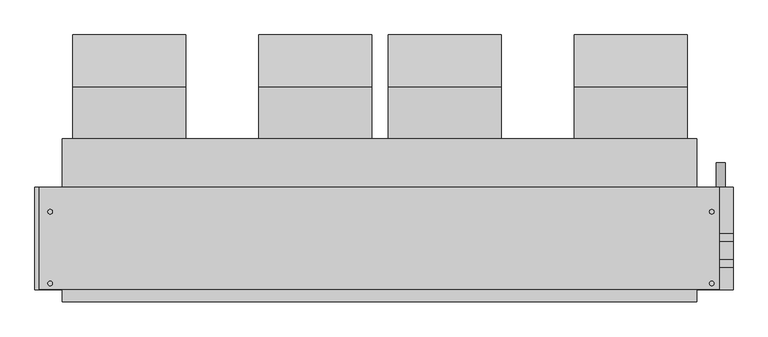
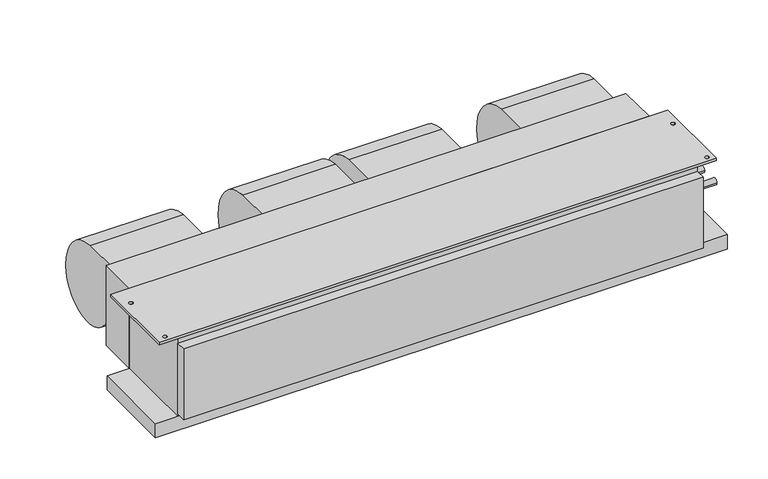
"""IFC4 building model written with IfcOpenShell, lengths in millimetres: proxy geometry, Concealed_Horizontal_Fan_Coil_Unit_-_42CAA_-_CARRIER_-_2-Pipe_Cool-EHeat_RH_2022 : Size 10 - 277v/60Hz/1Ph - 4 Row 8.0kW."""

from ifc_helpers import new_model, si_unit, point, frame, frame_2d, origin, place, context, project, spatial, polyline, circle_curve, trimmed, segment, composite_curve, outline, extrude, source, transform, mapped, element, save


def mechanical_equipment_d157ac76(model_context):
    return source(origin(), model_context, "Body", "SweptSolid", [
        extrude(outline(composite_curve([segment(trimmed(circle_curve(frame_2d((68.401169, -136.0299844)), 117.3559541), [point((77.7875, -19.05))], [point((185.7375, -138.176))], False, "CARTESIAN"), True, "CONTINUOUS"), segment(trimmed(circle_curve(frame_2d((90.0022663, -136.4250563)), 95.7512443), [point((185.7375, -138.176))], [point((77.7875, -231.394))], False, "CARTESIAN"), True, "CONTINUOUS"), segment(trimmed(circle_curve(frame_2d((89.9711869, -136.6666968)), 95.5076133), [point((77.7875, -231.394))], [point((-5.5245, -138.176))], False, "CARTESIAN"), True, "CONTINUOUS"), segment(trimmed(circle_curve(frame_2d((-24.6059828, -138.4775816)), 19.0838659), [point((-5.5245, -138.176))], [point((-17.7963373, -120.65))], True, "CARTESIAN"), True, "CONTINUOUS"), segment(polyline([(-17.7963373, -120.65), (-30.1625, -120.65), (-30.1625, -19.05), (77.7875, -19.05)]), True, "CONTINUOUS")], self_intersect=False)), frame((558.038, 0.0, 0.0), z_axis=(1.0, 0.0, 0.0), x_axis=(0.0, 1.0, 0.0)), (0.0, 0.0, 1.0), 235.712),
        extrude(outline(composite_curve([segment(trimmed(circle_curve(frame_2d((68.401169, -136.0299844)), 117.3559541), [point((77.7875, -19.05))], [point((185.7375, -138.176))], False, "CARTESIAN"), True, "CONTINUOUS"), segment(trimmed(circle_curve(frame_2d((90.0022663, -136.4250563)), 95.7512443), [point((185.7375, -138.176))], [point((77.7875, -231.394))], False, "CARTESIAN"), True, "CONTINUOUS"), segment(trimmed(circle_curve(frame_2d((89.9711869, -136.6666968)), 95.5076133), [point((77.7875, -231.394))], [point((-5.5245, -138.176))], False, "CARTESIAN"), True, "CONTINUOUS"), segment(trimmed(circle_curve(frame_2d((-24.6059828, -138.4775816)), 19.0838659), [point((-5.5245, -138.176))], [point((-17.7963373, -120.65))], True, "CARTESIAN"), True, "CONTINUOUS"), segment(polyline([(-17.7963373, -120.65), (-30.1625, -120.65), (-30.1625, -19.05), (77.7875, -19.05)]), True, "CONTINUOUS")], self_intersect=False)), frame((-486.537, 0.0, 0.0), z_axis=(1.0, 0.0, 0.0), x_axis=(0.0, 1.0, 0.0)), (0.0, 0.0, 1.0), 235.712),
        extrude(outline(composite_curve([segment(trimmed(circle_curve(frame_2d((68.401169, -136.0299844)), 117.3559541), [point((77.7875, -19.05))], [point((185.7375, -138.176))], False, "CARTESIAN"), True, "CONTINUOUS"), segment(trimmed(circle_curve(frame_2d((90.0022663, -136.4250563)), 95.7512443), [point((185.7375, -138.176))], [point((77.7875, -231.394))], False, "CARTESIAN"), True, "CONTINUOUS"), segment(trimmed(circle_curve(frame_2d((89.9711869, -136.6666968)), 95.5076133), [point((77.7875, -231.394))], [point((-5.5245, -138.176))], False, "CARTESIAN"), True, "CONTINUOUS"), segment(trimmed(circle_curve(frame_2d((-24.6059828, -138.4775816)), 19.0838659), [point((-5.5245, -138.176))], [point((-17.7963373, -120.65))], True, "CARTESIAN"), True, "CONTINUOUS"), segment(polyline([(-17.7963373, -120.65), (-30.1625, -120.65), (-30.1625, -19.05), (77.7875, -19.05)]), True, "CONTINUOUS")], self_intersect=False)), frame((-99.187, 0.0, 0.0), z_axis=(1.0, 0.0, 0.0), x_axis=(0.0, 1.0, 0.0)), (0.0, 0.0, 1.0), 235.712),
        extrude(outline(composite_curve([segment(trimmed(circle_curve(frame_2d((68.401169, -136.0299844)), 117.3559541), [point((77.7875, -19.05))], [point((185.7375, -138.176))], False, "CARTESIAN"), True, "CONTINUOUS"), segment(trimmed(circle_curve(frame_2d((90.0022663, -136.4250563)), 95.7512443), [point((185.7375, -138.176))], [point((77.7875, -231.394))], False, "CARTESIAN"), True, "CONTINUOUS"), segment(trimmed(circle_curve(frame_2d((89.9711869, -136.6666968)), 95.5076133), [point((77.7875, -231.394))], [point((-5.5245, -138.176))], False, "CARTESIAN"), True, "CONTINUOUS"), segment(trimmed(circle_curve(frame_2d((-24.6059828, -138.4775816)), 19.0838659), [point((-5.5245, -138.176))], [point((-17.7963373, -120.65))], True, "CARTESIAN"), True, "CONTINUOUS"), segment(polyline([(-17.7963373, -120.65), (-30.1625, -120.65), (-30.1625, -19.05), (77.7875, -19.05)]), True, "CONTINUOUS")], self_intersect=False)), frame((170.688, 0.0, 0.0), z_axis=(1.0, 0.0, 0.0), x_axis=(0.0, 1.0, 0.0)), (0.0, 0.0, 1.0), 235.712),
        extrude(outline(polyline([(860.425, -131.7625), (860.425, -344.4875), (-555.625, -344.4875), (-555.625, -131.7625), (860.425, -131.7625)]), holes=[composite_curve([segment(trimmed(circle_curve(frame_2d((-533.4, -182.5625)), 4.7625), [point((-538.1625, -182.5625))], [point((-528.6375, -182.5625))], True, "CARTESIAN"), True, "CONTINUOUS"), segment(trimmed(circle_curve(frame_2d((-533.4, -182.5625)), 4.7625), [point((-528.6375, -182.5625))], [point((-538.1625, -182.5625))], True, "CARTESIAN"), True, "CONTINUOUS")], self_intersect=False), composite_curve([segment(trimmed(circle_curve(frame_2d((-533.4, -331.7875)), 4.7625), [point((-538.1625, -331.7875))], [point((-528.6375, -331.7875))], True, "CARTESIAN"), True, "CONTINUOUS"), segment(trimmed(circle_curve(frame_2d((-533.4, -331.7875)), 4.7625), [point((-528.6375, -331.7875))], [point((-538.1625, -331.7875))], True, "CARTESIAN"), True, "CONTINUOUS")], self_intersect=False), composite_curve([segment(trimmed(circle_curve(frame_2d((844.55, -182.5625)), 4.7625), [point((839.7875, -182.5625))], [point((849.3125, -182.5625))], True, "CARTESIAN"), True, "CONTINUOUS"), segment(trimmed(circle_curve(frame_2d((844.55, -182.5625)), 4.7625), [point((849.3125, -182.5625))], [point((839.7875, -182.5625))], True, "CARTESIAN"), True, "CONTINUOUS")], self_intersect=False), composite_curve([segment(trimmed(circle_curve(frame_2d((844.55, -331.7875)), 4.7625), [point((839.7875, -331.7875))], [point((849.3125, -331.7875))], True, "CARTESIAN"), True, "CONTINUOUS"), segment(trimmed(circle_curve(frame_2d((844.55, -331.7875)), 4.7625), [point((849.3125, -331.7875))], [point((839.7875, -331.7875))], True, "CARTESIAN"), True, "CONTINUOUS")], self_intersect=False)]), frame((0.0, 0.0, -6.35), z_axis=(0.0, 0.0, 1.0), x_axis=(1.0, 0.0, 0.0)), (0.0, 0.0, 1.0), 6.35),
        extrude(outline(polyline([(-508.0, -30.1625), (812.8, -30.1625), (812.8, -131.7625), (-508.0, -131.7625), (-508.0, -30.1625)])), frame((0.0, 0.0, -215.9), z_axis=(0.0, 0.0, 1.0), x_axis=(1.0, 0.0, 0.0)), (0.0, 0.0, 1.0), 215.9),
        extrude(outline(composite_curve([segment(trimmed(circle_curve(frame_2d((-241.3, 863.6)), 9.525), [point((-241.3, 854.075))], [point((-241.3, 873.125))], False, "CARTESIAN"), True, "CONTINUOUS"), segment(trimmed(circle_curve(frame_2d((-241.3, 863.6)), 9.525), [point((-241.3, 873.125))], [point((-241.3, 854.075))], False, "CARTESIAN"), True, "CONTINUOUS")], self_intersect=False)), frame((0.0, -131.7625, 0.0), z_axis=(0.0, 1.0, 0.0), x_axis=(0.0, 0.0, 1.0)), (0.0, 0.0, 1.0), 50.8),
        extrude(outline(polyline([(812.8, -369.8875), (-508.0, -369.8875), (-508.0, -344.4875), (812.8, -344.4875), (812.8, -369.8875)])), frame((0.0, 0.0, -209.55), z_axis=(0.0, 0.0, 1.0), x_axis=(1.0, 0.0, 0.0)), (0.0, 0.0, 1.0), 190.5),
        extrude(outline(polyline([(889.0, -131.7625), (889.0, -344.4875), (-565.15, -344.4875), (-565.15, -131.7625), (889.0, -131.7625)])), frame((0.0, 0.0, -254.0), z_axis=(0.0, 0.0, 1.0), x_axis=(1.0, 0.0, 0.0)), (0.0, 0.0, 1.0), 38.1),
        extrude(outline(composite_curve([segment(trimmed(circle_curve(frame_2d((-290.5125, -104.775)), 7.9375), [point((-298.45, -104.775))], [point((-282.575, -104.775))], False, "CARTESIAN"), True, "CONTINUOUS"), segment(trimmed(circle_curve(frame_2d((-290.5125, -104.775)), 7.9375), [point((-282.575, -104.775))], [point((-298.45, -104.775))], False, "CARTESIAN"), True, "CONTINUOUS")], self_intersect=False)), frame((812.8, 0.0, 0.0), z_axis=(1.0, 0.0, 0.0), x_axis=(0.0, 1.0, 0.0)), (0.0, 0.0, 1.0), 76.2),
        extrude(outline(composite_curve([segment(trimmed(circle_curve(frame_2d((-236.5375, -104.775)), 7.9375), [point((-244.475, -104.775))], [point((-228.6, -104.775))], False, "CARTESIAN"), True, "CONTINUOUS"), segment(trimmed(circle_curve(frame_2d((-236.5375, -104.775)), 7.9375), [point((-228.6, -104.775))], [point((-244.475, -104.775))], False, "CARTESIAN"), True, "CONTINUOUS")], self_intersect=False)), frame((812.8, 0.0, 0.0), z_axis=(1.0, 0.0, 0.0), x_axis=(0.0, 1.0, 0.0)), (0.0, 0.0, 1.0), 76.2),
        extrude(outline(polyline([(812.8, -344.4875), (-508.0, -344.4875), (-508.0, -131.7625), (812.8, -131.7625), (812.8, -344.4875)])), frame((0.0, 0.0, -215.9), z_axis=(0.0, 0.0, 1.0), x_axis=(1.0, 0.0, 0.0)), (0.0, 0.0, 1.0), 209.55),
    ])


if __name__ == "__main__":
    model = new_model("IFC4")
    model_context = context("Model", 3, world=origin())
    ifc_project = project(units=[si_unit("LENGTHUNIT", "METRE", prefix="MILLI")], contexts=[model_context])
    site = spatial("IfcSite", under=ifc_project)
    building = spatial("IfcBuilding", under=site)
    placement = place(None, origin())
    mechanical_equipment_shape = mechanical_equipment_d157ac76(model_context)
    element("IfcBuildingElementProxy", 1, Name="Concealed_Horizontal_Fan_Coil_Unit_-_42CAA_-_CARRIER_-_2-Pipe_Cool-EHeat_RH_2022 : Size 10 - 277v/60Hz/1Ph - 4 Row 8.0kW", ObjectType="Concealed_Horizontal_Fan_Coil_Unit_-_42CAA_-_CARRIER_-_2-Pipe_Cool-EHeat_RH_2022 : Size 10 - 277v/60Hz/1Ph - 4 Row 8.0kW", at=placement, inside=building, context=model_context, shape_type="MappedRepresentation", body=[
        mapped(mechanical_equipment_shape, transform((0.0, 0.0, 0.0), x_axis=(1.0, 0.0, 0.0), y_axis=(0.0, 1.0, 0.0), z_axis=(0.0, 0.0, 1.0))),
    ])
    save(model, "model.ifc")
